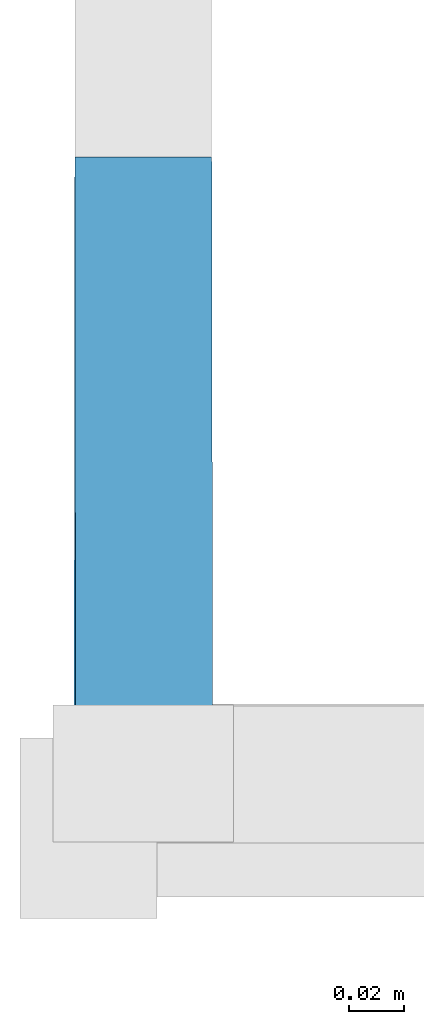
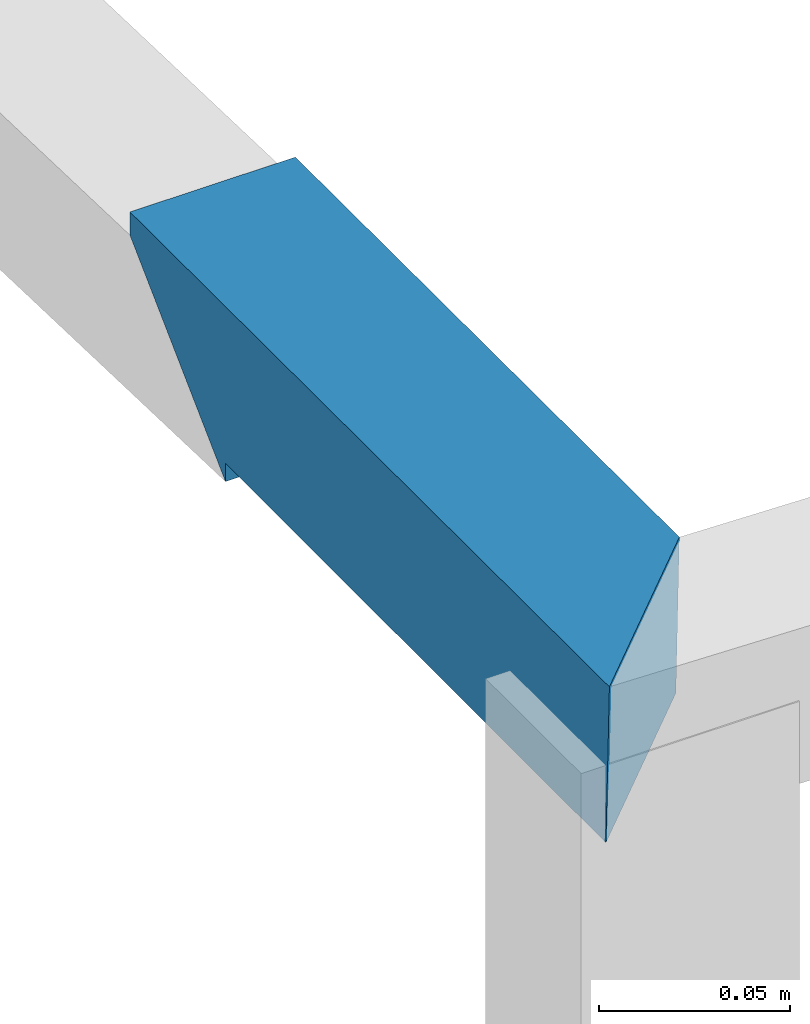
# One storey, part 77 of 91: 1 building element part, 1 element without a shape of its own.
"""IFC2X3 building model written with IfcOpenShell, lengths in metres."""

from ifc_helpers import new_model, entity, si_unit, converted_unit, derived_unit, money_unit, direction, frame, origin_with_axes, place, context, subcontext, project, spatial, faceted_brep, material, type_object, element, aggregate, save


model = new_model("IFC2X3")

# Units and contexts
model_context = context("Model", 3, precision=1e-05, world=origin_with_axes(), true_north=direction((0.0, 1.0)))
body_context = subcontext(model_context, "Body", "Model", "MODEL_VIEW")
ifc_project = project(units=[si_unit("LENGTHUNIT", "METRE"), si_unit("AREAUNIT", "SQUARE_METRE"), si_unit("VOLUMEUNIT", "CUBIC_METRE"), converted_unit("PLANEANGLEUNIT", "DEGREE", entity("IfcPlaneAngleMeasure", 0.0174532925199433), si_unit("PLANEANGLEUNIT", "RADIAN"), dimensions=[0, 0, 0, 0, 0, 0, 0]), money_unit("EUR"), converted_unit("TIMEUNIT", "Year", entity("IfcTimeMeasure", 31557600.0), si_unit("TIMEUNIT", "SECOND"), dimensions=[0, 0, 1, 0, 0, 0, 0]), si_unit("MASSUNIT", "GRAM", prefix="KILO"), si_unit("THERMODYNAMICTEMPERATUREUNIT", "DEGREE_CELSIUS"), si_unit("LUMINOUSINTENSITYUNIT", "LUMEN"), si_unit("ENERGYUNIT", "JOULE", prefix="MEGA"), derived_unit("THERMALCONDUCTANCEUNIT", [(si_unit("POWERUNIT", "WATT"), 1), (si_unit("LENGTHUNIT", "METRE"), -1), (si_unit("THERMODYNAMICTEMPERATUREUNIT", "KELVIN"), -1)]), derived_unit("SPECIFICHEATCAPACITYUNIT", [(si_unit("ENERGYUNIT", "JOULE"), 1), (si_unit("MASSUNIT", "GRAM", prefix="KILO"), -1), (si_unit("THERMODYNAMICTEMPERATUREUNIT", "KELVIN"), -1)]), derived_unit("MASSDENSITYUNIT", [(si_unit("MASSUNIT", "GRAM", prefix="KILO"), 1), (si_unit("VOLUMEUNIT", "CUBIC_METRE"), -1)])], contexts=[model_context])

# Site, building, storey
site_placement = place(None, origin_with_axes())
site = spatial("IfcSite", under=ifc_project, at=site_placement, Name="Site", CompositionType="ELEMENT")
building_placement = place(site_placement, origin_with_axes())
building = spatial("IfcBuilding", under=site, at=building_placement, Name="Bâtiment", CompositionType="ELEMENT")
storey_placement = place(building_placement, origin_with_axes())
storey = spatial("IfcBuildingStorey", under=building, at=storey_placement, Name="RDC", CompositionType="ELEMENT", Elevation=0.0)

# Proxy, building element part
building_element_proxy_type = type_object("IfcBuildingElementProxyType", Name="Type de garde-corps", PredefinedType="NOTDEFINED")
proxy_placement = place(storey_placement, frame((79.63337255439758, 3.614023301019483, -2.37161404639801), z_axis=(0.0, 0.0, 1.0), x_axis=(1.0, 0.0, 0.0)))
proxy = element("IfcBuildingElementProxy", 1, at=proxy_placement, inside=storey, type_object=building_element_proxy_type, Name="RAMPE-004")
ifc_material = material(Name="Acier Galva")
building_element_part_placement = place(proxy_placement, origin_with_axes())
building_element_part = element("IfcBuildingElementPart", 2, at=building_element_part_placement, material=ifc_material, Name="Acier Galva", context=body_context, shape_type="Brep", body=[
    faceted_brep([(-79.7188550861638, -41.23792903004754, 6.844155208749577), (-79.71885429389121, -41.28792903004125, 6.795750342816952), (-79.71885429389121, -41.28792903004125, 6.801558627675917), (-79.71918121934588, -41.48758970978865, 6.801560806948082), (-79.7188550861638, -41.23792903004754, 6.851558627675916), (-79.66885508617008, -41.23792823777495, 6.844155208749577), (-79.6688542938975, -41.28792823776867, 6.795750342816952), (-79.6688542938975, -41.28792823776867, 6.801558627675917), (-79.66918201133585, -41.43760714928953, 6.801560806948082), (-79.71852103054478, -41.48825011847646, 6.851556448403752), (-79.66885508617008, -41.23792823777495, 6.851558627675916), (-79.66852182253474, -41.43826755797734, 6.851556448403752)], [[[0, 1, 2, 3, 4]], [[0, 5, 6, 1]], [[1, 6, 7, 2]], [[2, 8, 3]], [[4, 3, 9]], [[5, 0, 4, 10]], [[6, 5, 10, 11, 7]], [[2, 7, 8]], [[9, 3, 8, 11]], [[10, 4, 9]], [[10, 9, 11]], [[7, 11, 8]]]),
])
aggregate(proxy, [building_element_part])

save(model, "model.ifc")
